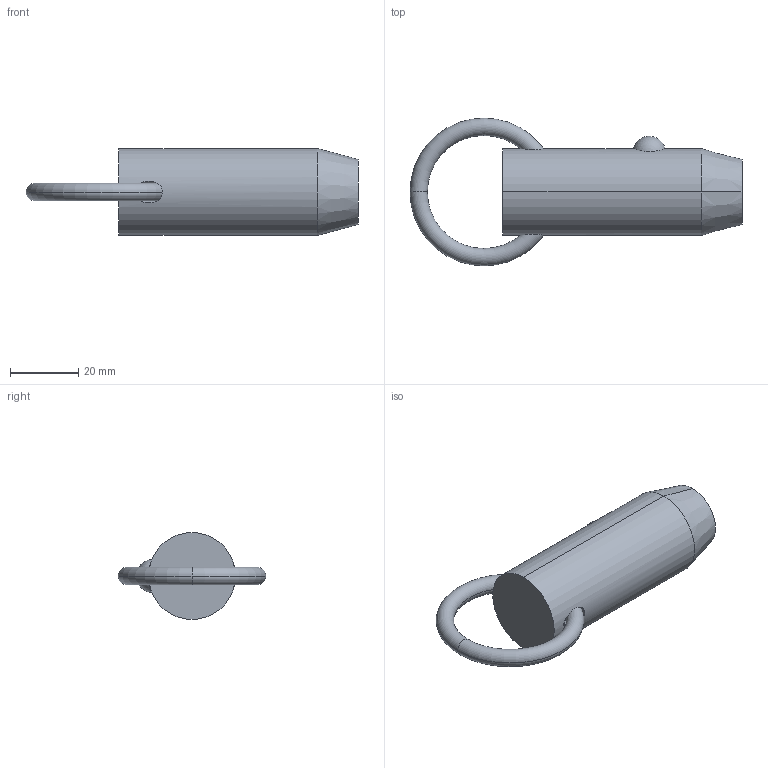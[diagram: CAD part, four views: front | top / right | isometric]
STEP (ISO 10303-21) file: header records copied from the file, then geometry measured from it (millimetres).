
FILE_DESCRIPTION (( 'STEP AP203' ), '1' );
FILE_NAME ('33010.W1010.step', '2024-11-01T10:47:11', ( '' ), ( '' ), 'SwSTEP 2.0', 'SolidWorks 2019', '' );
FILE_SCHEMA (( 'CONFIG_CONTROL_DESIGN' ));
Length unit declared in the file: millimetre
Products named in the file (3): Part2_33010.W1010; Part1_33010.W1010; 33010.W1010
Assembly tree (2 placements, depth 2):
  33010.W1010
    Part1_33010.W1010
    Part2_33010.W1010
Bounding box: 96.98 x 43.18 x 25.4 mm (x, y, z)
Volume: 35729.3 mm3; surface area: 8698.3 mm2
Topology: 2 solids, 2 shells, 18 faces, 37 edges, 22 vertices
Faces by surface type: torus 8, plane 4, sphere 2, cone 2, cylinder 2
Entity records: 975 total; most frequent: CARTESIAN_POINT 280, DIRECTION 100, ORIENTED_EDGE 74, AXIS2_PLACEMENT_3D 48, EDGE_CURVE 37, PERSON_AND_ORGANIZATION 26, CIRCLE 25, VERTEX_POINT 22
